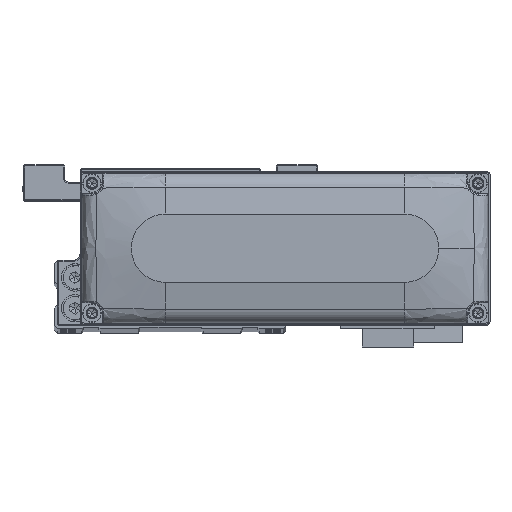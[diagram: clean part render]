
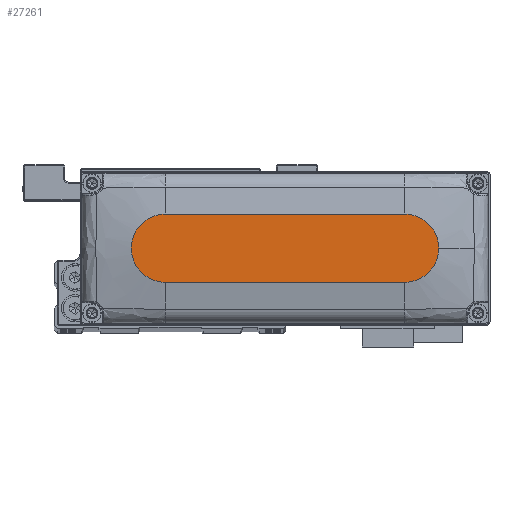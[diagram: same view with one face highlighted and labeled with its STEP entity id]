
A CAD part, top view. The second image highlights one B-rep face of the part: STEP entity #27261.
In plain terms, the highlighted planar face has unit normal (0, 0, 1).
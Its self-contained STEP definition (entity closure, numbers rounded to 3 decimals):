
#779 = CIRCLE ( 'NONE', #6146, 10. ) ;
#2486 = DIRECTION ( 'NONE',  ( 1., 0., 0. ) ) ;
#2809 = ORIENTED_EDGE ( 'NONE', *, *, #27669, .T. ) ;
#3061 = DIRECTION ( 'NONE',  ( -1., 0., 0. ) ) ;
#3990 = EDGE_CURVE ( 'NONE', #16896, #21322, #34620, .T. ) ;
#4323 = EDGE_CURVE ( 'NONE', #9146, #23602, #33743, .T. ) ;
#4678 = DIRECTION ( 'NONE',  ( 1., 0., 0. ) ) ;
#5081 = CARTESIAN_POINT ( 'NONE',  ( -35., 10., 28. ) ) ;
#5967 = CARTESIAN_POINT ( 'NONE',  ( -35., -10., 28. ) ) ;
#6146 = AXIS2_PLACEMENT_3D ( 'NONE', #6951, #19721, #32483 ) ;
#6951 = CARTESIAN_POINT ( 'NONE',  ( -35., 0., 28. ) ) ;
#7562 = ORIENTED_EDGE ( 'NONE', *, *, #27558, .T. ) ;
#7837 = PLANE ( 'NONE',  #18159 ) ;
#7997 = DIRECTION ( 'NONE',  ( 1., 0., 0. ) ) ;
#8771 = CARTESIAN_POINT ( 'NONE',  ( 45., 0., 28. ) ) ;
#9146 = VERTEX_POINT ( 'NONE', #28256 ) ;
#11187 = CARTESIAN_POINT ( 'NONE',  ( 35., -10., 28. ) ) ;
#12421 = EDGE_LOOP ( 'NONE', ( #39275, #7562, #25972, #21535, #2809 ) ) ;
#12831 = CIRCLE ( 'NONE', #36219, 10. ) ;
#14043 = CIRCLE ( 'NONE', #37426, 10. ) ;
#14916 = CARTESIAN_POINT ( 'NONE',  ( -35., -10., 28. ) ) ;
#16896 = VERTEX_POINT ( 'NONE', #14916 ) ;
#18159 = AXIS2_PLACEMENT_3D ( 'NONE', #20603, #33353, #4678 ) ;
#18738 = DIRECTION ( 'NONE',  ( 1., 0., 0. ) ) ;
#19721 = DIRECTION ( 'NONE',  ( 0., 0., 1. ) ) ;
#20603 = CARTESIAN_POINT ( 'NONE',  ( 0., 0., 28. ) ) ;
#21054 = VECTOR ( 'NONE', #18738, 1000. ) ;
#21322 = VERTEX_POINT ( 'NONE', #11187 ) ;
#21535 = ORIENTED_EDGE ( 'NONE', *, *, #33920, .T. ) ;
#21561 = CARTESIAN_POINT ( 'NONE',  ( 35., 0., 28. ) ) ;
#23602 = VERTEX_POINT ( 'NONE', #38401 ) ;
#23899 = CARTESIAN_POINT ( 'NONE',  ( 35., 0., 28. ) ) ;
#25972 = ORIENTED_EDGE ( 'NONE', *, *, #3990, .T. ) ;
#27261 = ADVANCED_FACE ( 'NONE', ( #36497 ), #7837, .T. ) ;
#27558 = EDGE_CURVE ( 'NONE', #23602, #16896, #779, .T. ) ;
#27669 = EDGE_CURVE ( 'NONE', #40450, #9146, #12831, .T. ) ;
#28256 = CARTESIAN_POINT ( 'NONE',  ( 35., 10., 28. ) ) ;
#31179 = DIRECTION ( 'NONE',  ( 0., 0., 1. ) ) ;
#32483 = DIRECTION ( 'NONE',  ( 1., 0., 0. ) ) ;
#33353 = DIRECTION ( 'NONE',  ( 0., 0., 1. ) ) ;
#33743 = LINE ( 'NONE', #5081, #37757 ) ;
#33920 = EDGE_CURVE ( 'NONE', #21322, #40450, #14043, .T. ) ;
#34620 = LINE ( 'NONE', #5967, #21054 ) ;
#36219 = AXIS2_PLACEMENT_3D ( 'NONE', #23899, #36653, #7997 ) ;
#36497 = FACE_OUTER_BOUND ( 'NONE', #12421, .T. ) ;
#36653 = DIRECTION ( 'NONE',  ( 0., 0., 1. ) ) ;
#37426 = AXIS2_PLACEMENT_3D ( 'NONE', #21561, #31179, #2486 ) ;
#37757 = VECTOR ( 'NONE', #3061, 1000. ) ;
#38401 = CARTESIAN_POINT ( 'NONE',  ( -35., 10., 28. ) ) ;
#39275 = ORIENTED_EDGE ( 'NONE', *, *, #4323, .T. ) ;
#40450 = VERTEX_POINT ( 'NONE', #8771 ) ;
